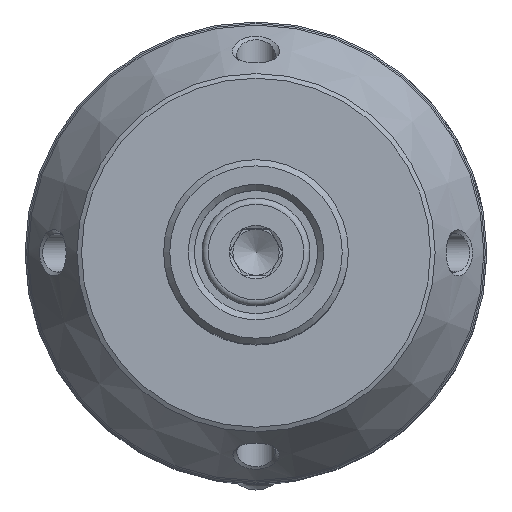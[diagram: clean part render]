
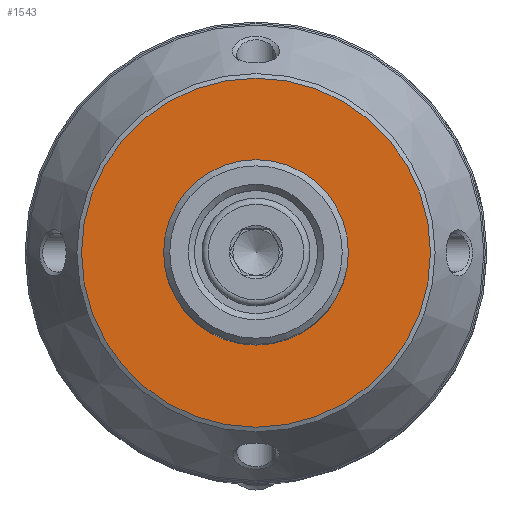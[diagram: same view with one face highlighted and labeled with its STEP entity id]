
A CAD part, top view. The second image highlights one B-rep face of the part: STEP entity #1543.
In plain terms, the highlighted planar face has unit normal (0, 0, 1).
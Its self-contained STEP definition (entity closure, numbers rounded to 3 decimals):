
#872=PLANE('',#5222);
#1543=ADVANCED_FACE('',(#2227,#2228),#872,.F.);
#1935=CIRCLE('',#5219,6.);
#1936=CIRCLE('',#5221,11.336);
#2227=FACE_BOUND('',#2572,.T.);
#2228=FACE_BOUND('',#2573,.T.);
#2572=EDGE_LOOP('',(#3192));
#2573=EDGE_LOOP('',(#3193));
#3192=ORIENTED_EDGE('',*,*,#4575,.T.);
#3193=ORIENTED_EDGE('',*,*,#4574,.T.);
#4131=VERTEX_POINT('',#7970);
#4132=VERTEX_POINT('',#7973);
#4574=EDGE_CURVE('',#4131,#4131,#1935,.T.);
#4575=EDGE_CURVE('',#4132,#4132,#1936,.T.);
#5219=AXIS2_PLACEMENT_3D('',#7969,#5971,#5972);
#5221=AXIS2_PLACEMENT_3D('',#7972,#5975,#5976);
#5222=AXIS2_PLACEMENT_3D('',#7974,#5977,#5978);
#5971=DIRECTION('',(0.,0.,-1.));
#5972=DIRECTION('',(-1.,0.,0.));
#5975=DIRECTION('',(0.,0.,1.));
#5976=DIRECTION('',(-1.,0.,0.));
#5977=DIRECTION('',(0.,0.,-1.));
#5978=DIRECTION('',(-1.,0.,0.));
#7969=CARTESIAN_POINT('',(0.,0.,0.));
#7970=CARTESIAN_POINT('',(-6.,0.,0.));
#7972=CARTESIAN_POINT('',(0.,0.,0.));
#7973=CARTESIAN_POINT('',(-11.336,0.,0.));
#7974=CARTESIAN_POINT('',(-6.,0.,0.));
